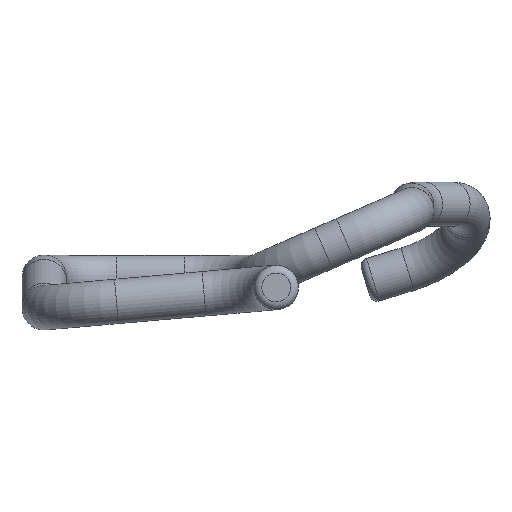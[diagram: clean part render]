
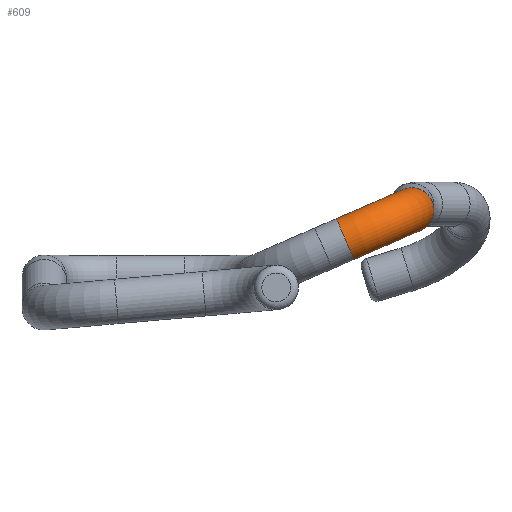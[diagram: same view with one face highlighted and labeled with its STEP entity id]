
A CAD part, front view. The second image highlights one B-rep face of the part: STEP entity #609.
In plain terms, the highlighted toroidal (fillet/blend) face has major radius 3.75 mm and minor radius 1.15 mm.
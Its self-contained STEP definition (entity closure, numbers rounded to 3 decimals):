
#505 = VERTEX_POINT('',#506);
#506 = CARTESIAN_POINT('',(27.088,26.75,-2.599));
#513 = CYLINDRICAL_SURFACE('',#514,1.15);
#514 = AXIS2_PLACEMENT_3D('',#515,#516,#517);
#515 = CARTESIAN_POINT('',(28.,29.898,-3.3));
#516 = DIRECTION('',(0.,-1.,0.));
#517 = DIRECTION('',(-0.793,0.,0.609));
#532 = EDGE_CURVE('',#505,#505,#533,.T.);
#533 = SURFACE_CURVE('',#534,(#539,#546),.PCURVE_S1.);
#534 = CIRCLE('',#535,1.15);
#535 = AXIS2_PLACEMENT_3D('',#536,#537,#538);
#536 = CARTESIAN_POINT('',(28.,26.75,-3.3));
#537 = DIRECTION('',(0.,-1.,0.));
#538 = DIRECTION('',(-0.793,0.,0.609)
  );
#539 = PCURVE('',#513,#540);
#540 = DEFINITIONAL_REPRESENTATION('',(#541),#545);
#541 = LINE('',#542,#543);
#542 = CARTESIAN_POINT('',(0.,3.148));
#543 = VECTOR('',#544,1.);
#544 = DIRECTION('',(1.,0.));
#545 = ( GEOMETRIC_REPRESENTATION_CONTEXT(2) 
PARAMETRIC_REPRESENTATION_CONTEXT() REPRESENTATION_CONTEXT('2D SPACE',''
  ) );
#546 = PCURVE('',#547,#552);
#547 = TOROIDAL_SURFACE('',#548,3.75,1.15);
#548 = AXIS2_PLACEMENT_3D('',#549,#550,#551);
#549 = CARTESIAN_POINT('',(24.56,26.75,-4.794));
#550 = DIRECTION('',(0.398,0.,-0.917)
  );
#551 = DIRECTION('',(0.917,0.,0.398));
#552 = DEFINITIONAL_REPRESENTATION('',(#553),#557);
#553 = LINE('',#554,#555);
#554 = CARTESIAN_POINT('',(0.,10.49));
#555 = VECTOR('',#556,1.);
#556 = DIRECTION('',(-0.,-1.));
#557 = ( GEOMETRIC_REPRESENTATION_CONTEXT(2) 
PARAMETRIC_REPRESENTATION_CONTEXT() REPRESENTATION_CONTEXT('2D SPACE',''
  ) );
#609 = ADVANCED_FACE('',(#610),#547,.T.);
#610 = FACE_BOUND('',#611,.T.);
#611 = EDGE_LOOP('',(#612,#636,#663,#664));
#612 = ORIENTED_EDGE('',*,*,#613,.T.);
#613 = EDGE_CURVE('',#505,#614,#616,.T.);
#614 = VERTEX_POINT('',#615);
#615 = CARTESIAN_POINT('',(24.16,23.557,
    -3.871));
#616 = SEAM_CURVE('',#617,(#622,#629),.PCURVE_S1.);
#617 = CIRCLE('',#618,3.193);
#618 = AXIS2_PLACEMENT_3D('',#619,#620,#621);
#619 = CARTESIAN_POINT('',(24.16,26.75,-3.871));
#620 = DIRECTION('',(0.398,0.,-0.917)
  );
#621 = DIRECTION('',(0.917,0.,0.398));
#622 = PCURVE('',#547,#623);
#623 = DEFINITIONAL_REPRESENTATION('',(#624),#628);
#624 = LINE('',#625,#626);
#625 = CARTESIAN_POINT('',(0.,4.207));
#626 = VECTOR('',#627,1.);
#627 = DIRECTION('',(1.,0.));
#628 = ( GEOMETRIC_REPRESENTATION_CONTEXT(2) 
PARAMETRIC_REPRESENTATION_CONTEXT() REPRESENTATION_CONTEXT('2D SPACE',''
  ) );
#629 = PCURVE('',#547,#630);
#630 = DEFINITIONAL_REPRESENTATION('',(#631),#635);
#631 = LINE('',#632,#633);
#632 = CARTESIAN_POINT('',(0.,10.49));
#633 = VECTOR('',#634,1.);
#634 = DIRECTION('',(1.,0.));
#635 = ( GEOMETRIC_REPRESENTATION_CONTEXT(2) 
PARAMETRIC_REPRESENTATION_CONTEXT() REPRESENTATION_CONTEXT('2D SPACE',''
  ) );
#636 = ORIENTED_EDGE('',*,*,#637,.T.);
#637 = EDGE_CURVE('',#614,#614,#638,.T.);
#638 = SURFACE_CURVE('',#639,(#644,#651),.PCURVE_S1.);
#639 = CIRCLE('',#640,1.15);
#640 = AXIS2_PLACEMENT_3D('',#641,#642,#643);
#641 = CARTESIAN_POINT('',(24.56,23.,-4.794));
#642 = DIRECTION('',(0.917,0.,0.398));
#643 = DIRECTION('',(0.,-1.,0.));
#644 = PCURVE('',#547,#645);
#645 = DEFINITIONAL_REPRESENTATION('',(#646),#650);
#646 = LINE('',#647,#648);
#647 = CARTESIAN_POINT('',(1.571,0.));
#648 = VECTOR('',#649,1.);
#649 = DIRECTION('',(0.,1.));
#650 = ( GEOMETRIC_REPRESENTATION_CONTEXT(2) 
PARAMETRIC_REPRESENTATION_CONTEXT() REPRESENTATION_CONTEXT('2D SPACE',''
  ) );
#651 = PCURVE('',#652,#657);
#652 = CYLINDRICAL_SURFACE('',#653,1.15);
#653 = AXIS2_PLACEMENT_3D('',#654,#655,#656);
#654 = CARTESIAN_POINT('',(24.56,23.,-4.794));
#655 = DIRECTION('',(-0.917,0.,-0.398));
#656 = DIRECTION('',(-0.349,0.484,0.802));
#657 = DEFINITIONAL_REPRESENTATION('',(#658),#662);
#658 = LINE('',#659,#660);
#659 = CARTESIAN_POINT('',(10.49,0.));
#660 = VECTOR('',#661,1.);
#661 = DIRECTION('',(-1.,-0.));
#662 = ( GEOMETRIC_REPRESENTATION_CONTEXT(2) 
PARAMETRIC_REPRESENTATION_CONTEXT() REPRESENTATION_CONTEXT('2D SPACE',''
  ) );
#663 = ORIENTED_EDGE('',*,*,#613,.F.);
#664 = ORIENTED_EDGE('',*,*,#532,.T.);
